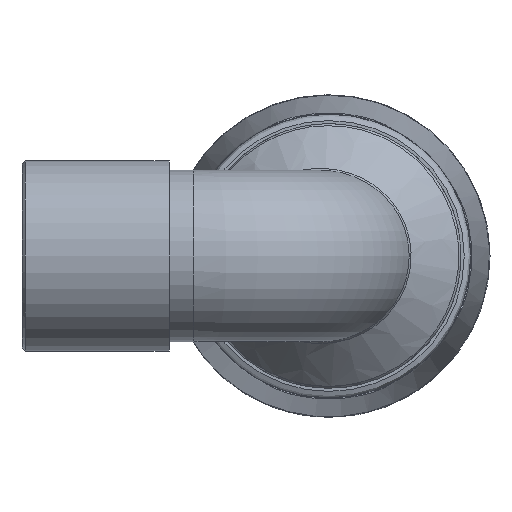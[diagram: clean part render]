
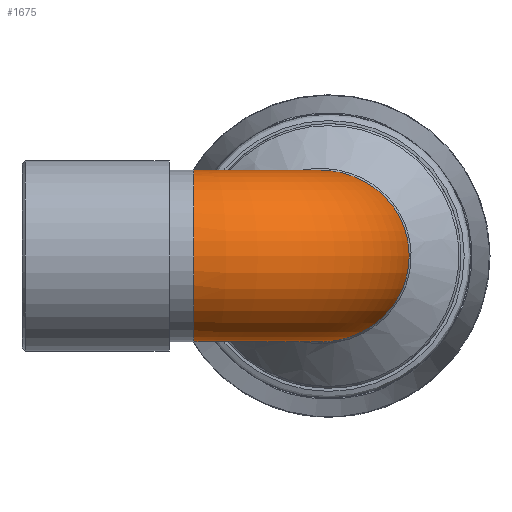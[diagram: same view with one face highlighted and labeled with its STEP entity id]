
A CAD part, left-side view. The second image highlights one B-rep face of the part: STEP entity #1675.
In plain terms, the highlighted toroidal (fillet/blend) face has major radius 17.144 mm and minor radius 10.899 mm.
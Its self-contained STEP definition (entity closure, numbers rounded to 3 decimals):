
#17=TOROIDAL_SURFACE('',#1832,17.144,10.899);
#186=B_SPLINE_CURVE_WITH_KNOTS('',3,(#2841,#2842,#2843,#2844,#2845,#2846,
#2847,#2848,#2849,#2850,#2851,#2852,#2853,#2854,#2855,#2856,#2857,#2858,
#2859),.UNSPECIFIED.,.T.,.F.,(4,1,1,1,1,1,1,1,1,1,1,1,1,1,1,1,4),(-3.142,
-2.917,-2.693,-2.244,-1.795,
-1.346,-0.748,-0.449,0.15,
0.449,0.898,1.346,1.795,2.244,
2.693,2.917,3.142),.UNSPECIFIED.);
#373=FACE_BOUND('',#522,.T.);
#399=FACE_OUTER_BOUND('',#521,.T.);
#521=EDGE_LOOP('',(#1222));
#522=EDGE_LOOP('',(#1223));
#671=CIRCLE('',#1827,10.899);
#760=VERTEX_POINT('',#2839);
#779=VERTEX_POINT('',#2924);
#931=EDGE_CURVE('',#760,#760,#186,.T.);
#950=EDGE_CURVE('',#779,#779,#671,.T.);
#1222=ORIENTED_EDGE('',*,*,#931,.F.);
#1223=ORIENTED_EDGE('',*,*,#950,.T.);
#1675=ADVANCED_FACE('',(#399,#373),#17,.T.);
#1827=AXIS2_PLACEMENT_3D('',#2925,#2090,#2091);
#1832=AXIS2_PLACEMENT_3D('',#2933,#2100,#2101);
#2090=DIRECTION('center_axis',(0.,-1.,0.));
#2091=DIRECTION('ref_axis',(-1.,0.,0.));
#2100=DIRECTION('center_axis',(0.,0.,1.));
#2101=DIRECTION('ref_axis',(1.,0.,0.));
#2839=CARTESIAN_POINT('',(11.495,14.482,0.));
#2841=CARTESIAN_POINT('Ctrl Pts',(11.495,14.482,0.));
#2842=CARTESIAN_POINT('Ctrl Pts',(11.495,14.482,0.855));
#2843=CARTESIAN_POINT('Ctrl Pts',(11.417,14.152,2.565));
#2844=CARTESIAN_POINT('Ctrl Pts',(11.109,12.442,5.64));
#2845=CARTESIAN_POINT('Ctrl Pts',(10.87,9.149,8.694));
#2846=CARTESIAN_POINT('Ctrl Pts',(10.864,4.301,10.857));
#2847=CARTESIAN_POINT('Ctrl Pts',(10.927,-1.582,11.127));
#2848=CARTESIAN_POINT('Ctrl Pts',(10.979,-6.397,8.737));
#2849=CARTESIAN_POINT('Ctrl Pts',(11.009,-9.87,4.093));
#2850=CARTESIAN_POINT('Ctrl Pts',(11.016,-10.639,-0.633));
#2851=CARTESIAN_POINT('Ctrl Pts',(11.001,-8.983,-5.574));
#2852=CARTESIAN_POINT('Ctrl Pts',(10.974,-5.887,-9.099));
#2853=CARTESIAN_POINT('Ctrl Pts',(10.92,-0.988,-11.092));
#2854=CARTESIAN_POINT('Ctrl Pts',(10.865,4.298,-10.86));
#2855=CARTESIAN_POINT('Ctrl Pts',(10.869,9.15,-8.692));
#2856=CARTESIAN_POINT('Ctrl Pts',(11.109,12.441,-5.641));
#2857=CARTESIAN_POINT('Ctrl Pts',(11.417,14.152,-2.565));
#2858=CARTESIAN_POINT('Ctrl Pts',(11.495,14.482,-0.855));
#2859=CARTESIAN_POINT('Ctrl Pts',(11.495,14.482,0.));
#2924=CARTESIAN_POINT('',(10.899,17.144,0.));
#2925=CARTESIAN_POINT('Origin',(0.,17.144,0.));
#2933=CARTESIAN_POINT('Origin',(17.144,17.144,0.));
